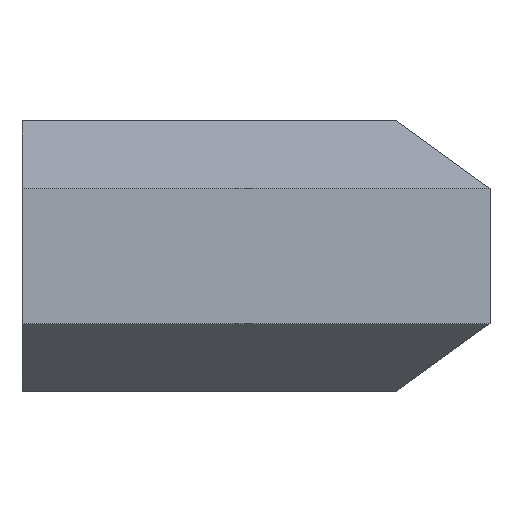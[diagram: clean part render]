
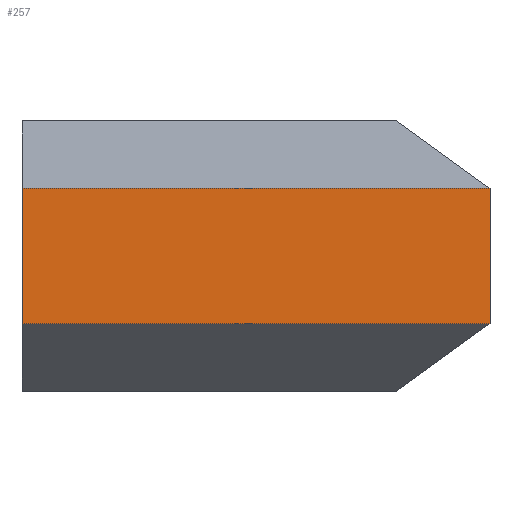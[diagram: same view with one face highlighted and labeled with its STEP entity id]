
A CAD part, front view. The second image highlights one B-rep face of the part: STEP entity #257.
In plain terms, the highlighted planar face has unit normal (0, -1, 0).
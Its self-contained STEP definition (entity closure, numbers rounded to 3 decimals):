
#25=FACE_OUTER_BOUND('',#39,.T.);
#39=EDGE_LOOP('',(#219,#220,#221,#222));
#55=LINE('',#385,#89);
#65=LINE('',#404,#99);
#69=LINE('',#410,#103);
#75=LINE('',#421,#109);
#89=VECTOR('',#312,10.);
#99=VECTOR('',#324,10.);
#103=VECTOR('',#332,10.);
#109=VECTOR('',#348,10.);
#123=VERTEX_POINT('',#382);
#124=VERTEX_POINT('',#384);
#131=VERTEX_POINT('',#401);
#132=VERTEX_POINT('',#403);
#145=EDGE_CURVE('',#123,#124,#55,.T.);
#155=EDGE_CURVE('',#131,#132,#65,.T.);
#159=EDGE_CURVE('',#124,#131,#69,.T.);
#165=EDGE_CURVE('',#132,#123,#75,.T.);
#219=ORIENTED_EDGE('',*,*,#159,.F.);
#220=ORIENTED_EDGE('',*,*,#145,.F.);
#221=ORIENTED_EDGE('',*,*,#165,.F.);
#222=ORIENTED_EDGE('',*,*,#155,.F.);
#244=PLANE('',#290);
#257=ADVANCED_FACE('',(#25),#244,.T.);
#290=AXIS2_PLACEMENT_3D('',#420,#346,#347);
#312=DIRECTION('',(0.,0.,-1.));
#324=DIRECTION('',(0.,0.,1.));
#332=DIRECTION('',(-1.,0.,0.));
#346=DIRECTION('center_axis',(0.,-1.,0.));
#347=DIRECTION('ref_axis',(0.,0.,-1.));
#348=DIRECTION('',(1.,0.,0.));
#382=CARTESIAN_POINT('',(50.,-25.,14.434));
#384=CARTESIAN_POINT('',(50.,-25.,-14.434));
#385=CARTESIAN_POINT('',(50.,-25.,14.434));
#401=CARTESIAN_POINT('',(-50.,-25.,-14.434));
#403=CARTESIAN_POINT('',(-50.,-25.,14.434));
#404=CARTESIAN_POINT('',(-50.,-25.,14.434));
#410=CARTESIAN_POINT('',(0.,-25.,-14.434));
#420=CARTESIAN_POINT('Origin',(0.,-25.,14.434));
#421=CARTESIAN_POINT('',(0.,-25.,14.434));
